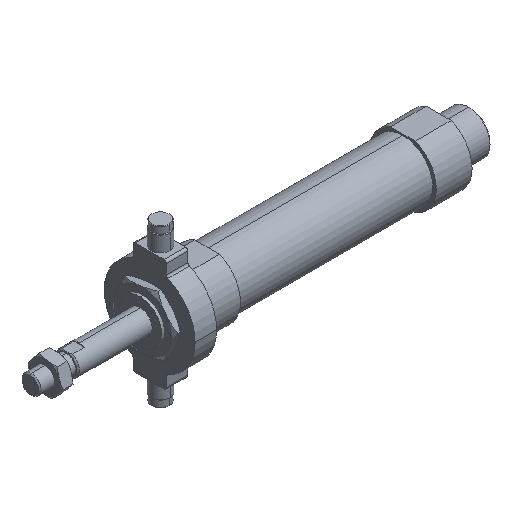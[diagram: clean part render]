
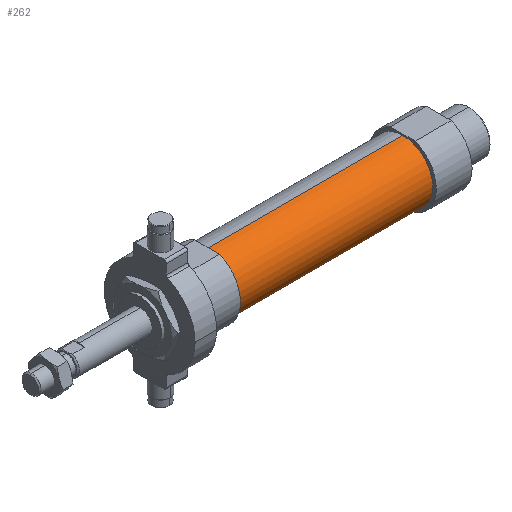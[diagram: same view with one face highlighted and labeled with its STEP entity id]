
A CAD part, isometric view. The second image highlights one B-rep face of the part: STEP entity #262.
In plain terms, the highlighted cylindrical face has radius 12.5 mm (diameter 25 mm), a partial arc.
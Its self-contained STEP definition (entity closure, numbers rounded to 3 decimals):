
#27 = CARTESIAN_POINT ( 'NONE',  ( 156., 0., 0. ) ) ;
#70 = DIRECTION ( 'NONE',  ( 0., 0., 1. ) ) ;
#78 = LINE ( 'NONE', #384, #3406 ) ;
#94 = CARTESIAN_POINT ( 'NONE',  ( 74., 0., 12.5 ) ) ;
#105 = DIRECTION ( 'NONE',  ( 0., 0., 1. ) ) ;
#130 = AXIS2_PLACEMENT_3D ( 'NONE', #2415, #2346, #70 ) ;
#142 = EDGE_CURVE ( 'NONE', #1997, #2003, #3222, .T. ) ;
#262 = ADVANCED_FACE ( 'NONE', ( #1496 ), #3446, .T. ) ;
#283 = VECTOR ( 'NONE', #937, 1000. ) ;
#304 = EDGE_LOOP ( 'NONE', ( #767, #3154, #1732, #3884 ) ) ;
#342 = AXIS2_PLACEMENT_3D ( 'NONE', #3673, #4112, #2176 ) ;
#384 = CARTESIAN_POINT ( 'NONE',  ( -6.469, 0., -12.5 ) ) ;
#702 = VERTEX_POINT ( 'NONE', #1050 ) ;
#767 = ORIENTED_EDGE ( 'NONE', *, *, #4225, .F. ) ;
#771 = CIRCLE ( 'NONE', #130, 12.5 ) ;
#785 = EDGE_CURVE ( 'NONE', #702, #2003, #771, .T. ) ;
#937 = DIRECTION ( 'NONE',  ( -1., 0., 0. ) ) ;
#1050 = CARTESIAN_POINT ( 'NONE',  ( 74., 0., -12.5 ) ) ;
#1156 = CARTESIAN_POINT ( 'NONE',  ( -6.469, 0., 12.5 ) ) ;
#1394 = AXIS2_PLACEMENT_3D ( 'NONE', #27, #1704, #105 ) ;
#1496 = FACE_OUTER_BOUND ( 'NONE', #304, .T. ) ;
#1542 = DIRECTION ( 'NONE',  ( -1., 0., 0. ) ) ;
#1557 = EDGE_CURVE ( 'NONE', #2622, #1997, #2727, .T. ) ;
#1704 = DIRECTION ( 'NONE',  ( -1., 0., 0. ) ) ;
#1732 = ORIENTED_EDGE ( 'NONE', *, *, #142, .T. ) ;
#1997 = VERTEX_POINT ( 'NONE', #2858 ) ;
#2003 = VERTEX_POINT ( 'NONE', #94 ) ;
#2176 = DIRECTION ( 'NONE',  ( 0., 0., 1. ) ) ;
#2346 = DIRECTION ( 'NONE',  ( -1., 0., 0. ) ) ;
#2415 = CARTESIAN_POINT ( 'NONE',  ( 74., 0., 0. ) ) ;
#2622 = VERTEX_POINT ( 'NONE', #4216 ) ;
#2727 = CIRCLE ( 'NONE', #1394, 12.5 ) ;
#2858 = CARTESIAN_POINT ( 'NONE',  ( 156., 0., 12.5 ) ) ;
#3154 = ORIENTED_EDGE ( 'NONE', *, *, #1557, .T. ) ;
#3222 = LINE ( 'NONE', #1156, #283 ) ;
#3406 = VECTOR ( 'NONE', #1542, 1000. ) ;
#3446 = CYLINDRICAL_SURFACE ( 'NONE', #342, 12.5 ) ;
#3673 = CARTESIAN_POINT ( 'NONE',  ( -6.469, 0., 0. ) ) ;
#3884 = ORIENTED_EDGE ( 'NONE', *, *, #785, .F. ) ;
#4112 = DIRECTION ( 'NONE',  ( -1., 0., 0. ) ) ;
#4216 = CARTESIAN_POINT ( 'NONE',  ( 156., 0., -12.5 ) ) ;
#4225 = EDGE_CURVE ( 'NONE', #2622, #702, #78, .T. ) ;
